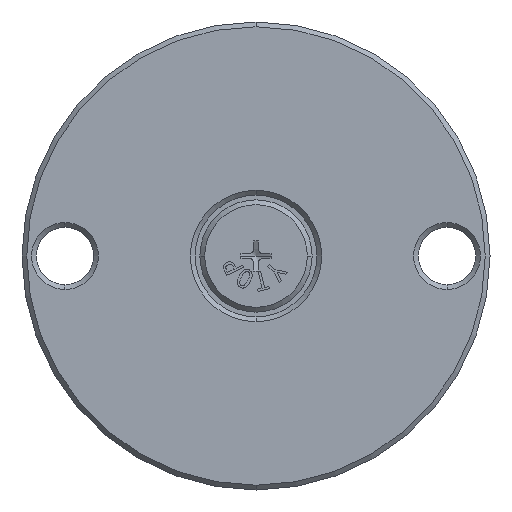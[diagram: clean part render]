
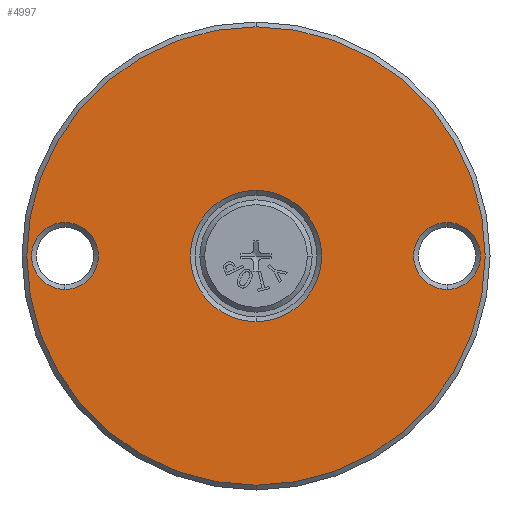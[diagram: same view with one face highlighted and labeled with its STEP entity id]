
A CAD part, front view. The second image highlights one B-rep face of the part: STEP entity #4997.
In plain terms, the highlighted planar face has unit normal (0, -1, 0).
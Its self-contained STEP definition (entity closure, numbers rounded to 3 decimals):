
#65 = DIRECTION ( 'NONE',  ( 0., 0., 1. ) ) ;
#100 = CARTESIAN_POINT ( 'NONE',  ( 0., 0., 48. ) ) ;
#441 = AXIS2_PLACEMENT_3D ( 'NONE', #7287, #6573, #1445 ) ;
#600 = EDGE_LOOP ( 'NONE', ( #4501, #1267 ) ) ;
#695 = CARTESIAN_POINT ( 'NONE',  ( 40., 0., -7. ) ) ;
#785 = DIRECTION ( 'NONE',  ( 0., 1., 0. ) ) ;
#942 = VERTEX_POINT ( 'NONE', #695 ) ;
#1068 = PLANE ( 'NONE',  #6091 ) ;
#1267 = ORIENTED_EDGE ( 'NONE', *, *, #8315, .T. ) ;
#1360 = DIRECTION ( 'NONE',  ( 0., 1., 0. ) ) ;
#1445 = DIRECTION ( 'NONE',  ( 0., 0., 1. ) ) ;
#1677 = CARTESIAN_POINT ( 'NONE',  ( -40., 0., -7. ) ) ;
#1714 = DIRECTION ( 'NONE',  ( 0., 0., 1. ) ) ;
#1753 = DIRECTION ( 'NONE',  ( 0., 0., 1. ) ) ;
#1803 = EDGE_CURVE ( 'NONE', #1930, #5308, #4229, .T. ) ;
#1907 = ORIENTED_EDGE ( 'NONE', *, *, #4740, .T. ) ;
#1915 = CARTESIAN_POINT ( 'NONE',  ( 0., 0., -48. ) ) ;
#1930 = VERTEX_POINT ( 'NONE', #4211 ) ;
#2018 = FACE_BOUND ( 'NONE', #4693, .T. ) ;
#2141 = EDGE_LOOP ( 'NONE', ( #2556, #1907 ) ) ;
#2215 = AXIS2_PLACEMENT_3D ( 'NONE', #7130, #2579, #65 ) ;
#2314 = AXIS2_PLACEMENT_3D ( 'NONE', #8150, #5552, #4243 ) ;
#2334 = CARTESIAN_POINT ( 'NONE',  ( 0., 0., -13.75 ) ) ;
#2342 = CARTESIAN_POINT ( 'NONE',  ( 49., 0., 0. ) ) ;
#2509 = DIRECTION ( 'NONE',  ( 0., 1., 0. ) ) ;
#2531 = AXIS2_PLACEMENT_3D ( 'NONE', #6952, #7008, #1753 ) ;
#2556 = ORIENTED_EDGE ( 'NONE', *, *, #7400, .T. ) ;
#2563 = CARTESIAN_POINT ( 'NONE',  ( 0., 0., 0. ) ) ;
#2579 = DIRECTION ( 'NONE',  ( 0., -1., 0. ) ) ;
#2607 = CIRCLE ( 'NONE', #2215, 48. ) ;
#2668 = ORIENTED_EDGE ( 'NONE', *, *, #1803, .T. ) ;
#2870 = DIRECTION ( 'NONE',  ( 0., 1., 0. ) ) ;
#2930 = CIRCLE ( 'NONE', #5387, 7. ) ;
#3021 = AXIS2_PLACEMENT_3D ( 'NONE', #4885, #2870, #4822 ) ;
#3288 = EDGE_LOOP ( 'NONE', ( #7999, #4386 ) ) ;
#3346 = DIRECTION ( 'NONE',  ( 0., 0., 1. ) ) ;
#3623 = AXIS2_PLACEMENT_3D ( 'NONE', #4755, #1360, #3346 ) ;
#3954 = CIRCLE ( 'NONE', #441, 7. ) ;
#4048 = VERTEX_POINT ( 'NONE', #6148 ) ;
#4211 = CARTESIAN_POINT ( 'NONE',  ( 0., 0., 13.75 ) ) ;
#4229 = CIRCLE ( 'NONE', #5697, 13.75 ) ;
#4243 = DIRECTION ( 'NONE',  ( 0., 0., 1. ) ) ;
#4254 = FACE_BOUND ( 'NONE', #3288, .T. ) ;
#4301 = EDGE_CURVE ( 'NONE', #7755, #8317, #6419, .T. ) ;
#4386 = ORIENTED_EDGE ( 'NONE', *, *, #5990, .T. ) ;
#4501 = ORIENTED_EDGE ( 'NONE', *, *, #4301, .T. ) ;
#4674 = CARTESIAN_POINT ( 'NONE',  ( -40., 0., 0. ) ) ;
#4693 = EDGE_LOOP ( 'NONE', ( #4815, #2668 ) ) ;
#4705 = EDGE_CURVE ( 'NONE', #7155, #4048, #3954, .T. ) ;
#4740 = EDGE_CURVE ( 'NONE', #6983, #942, #4778, .T. ) ;
#4755 = CARTESIAN_POINT ( 'NONE',  ( 40., 0., 0. ) ) ;
#4756 = CARTESIAN_POINT ( 'NONE',  ( 40., 0., 7. ) ) ;
#4778 = CIRCLE ( 'NONE', #3623, 7. ) ;
#4815 = ORIENTED_EDGE ( 'NONE', *, *, #4865, .T. ) ;
#4822 = DIRECTION ( 'NONE',  ( 0., 0., 1. ) ) ;
#4865 = EDGE_CURVE ( 'NONE', #5308, #1930, #7350, .T. ) ;
#4885 = CARTESIAN_POINT ( 'NONE',  ( 0., 0., 0. ) ) ;
#4997 = ADVANCED_FACE ( 'NONE', ( #5793, #4254, #6104, #2018 ), #1068, .F. ) ;
#5308 = VERTEX_POINT ( 'NONE', #2334 ) ;
#5387 = AXIS2_PLACEMENT_3D ( 'NONE', #4674, #785, #6638 ) ;
#5552 = DIRECTION ( 'NONE',  ( 0., 1., 0. ) ) ;
#5697 = AXIS2_PLACEMENT_3D ( 'NONE', #2563, #2509, #5816 ) ;
#5793 = FACE_BOUND ( 'NONE', #2141, .T. ) ;
#5816 = DIRECTION ( 'NONE',  ( 0., 0., 1. ) ) ;
#5990 = EDGE_CURVE ( 'NONE', #4048, #7155, #2930, .T. ) ;
#6091 = AXIS2_PLACEMENT_3D ( 'NONE', #2342, #8230, #1714 ) ;
#6104 = FACE_OUTER_BOUND ( 'NONE', #600, .T. ) ;
#6148 = CARTESIAN_POINT ( 'NONE',  ( -40., 0., 7. ) ) ;
#6419 = CIRCLE ( 'NONE', #2531, 48. ) ;
#6573 = DIRECTION ( 'NONE',  ( 0., 1., 0. ) ) ;
#6638 = DIRECTION ( 'NONE',  ( 0., 0., 1. ) ) ;
#6802 = CIRCLE ( 'NONE', #2314, 7. ) ;
#6952 = CARTESIAN_POINT ( 'NONE',  ( 0., 0., 0. ) ) ;
#6983 = VERTEX_POINT ( 'NONE', #4756 ) ;
#7008 = DIRECTION ( 'NONE',  ( 0., -1., 0. ) ) ;
#7130 = CARTESIAN_POINT ( 'NONE',  ( 0., 0., 0. ) ) ;
#7155 = VERTEX_POINT ( 'NONE', #1677 ) ;
#7287 = CARTESIAN_POINT ( 'NONE',  ( -40., 0., 0. ) ) ;
#7350 = CIRCLE ( 'NONE', #3021, 13.75 ) ;
#7400 = EDGE_CURVE ( 'NONE', #942, #6983, #6802, .T. ) ;
#7755 = VERTEX_POINT ( 'NONE', #100 ) ;
#7999 = ORIENTED_EDGE ( 'NONE', *, *, #4705, .T. ) ;
#8150 = CARTESIAN_POINT ( 'NONE',  ( 40., 0., 0. ) ) ;
#8230 = DIRECTION ( 'NONE',  ( 0., 1., 0. ) ) ;
#8315 = EDGE_CURVE ( 'NONE', #8317, #7755, #2607, .T. ) ;
#8317 = VERTEX_POINT ( 'NONE', #1915 ) ;
